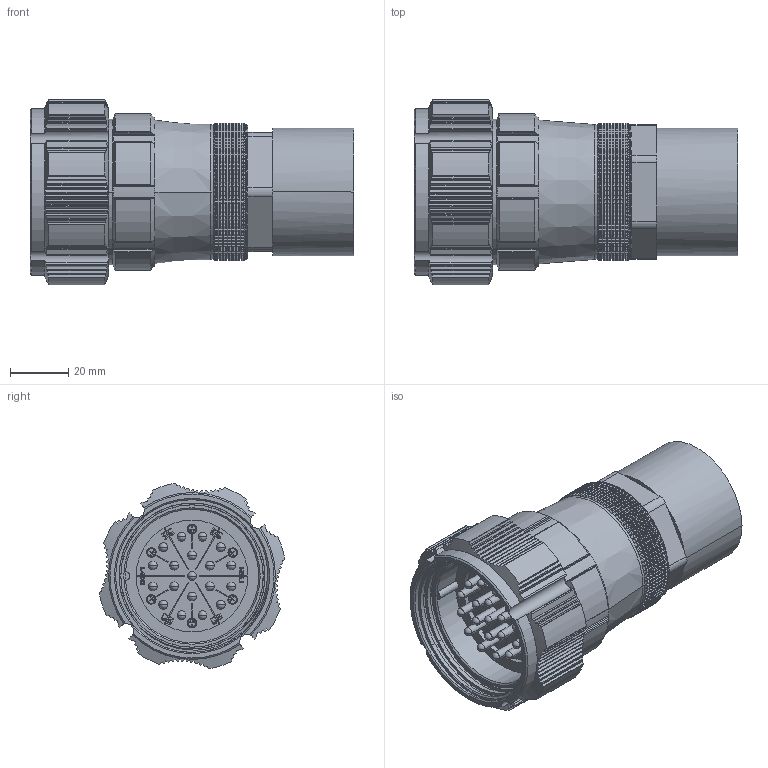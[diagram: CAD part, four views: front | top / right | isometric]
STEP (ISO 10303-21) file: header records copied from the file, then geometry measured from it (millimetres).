
FILE_DESCRIPTION((''),'2;1');
FILE_NAME('PRT0001','2020-06-04T',('Administrator'),(''),'CREO PARAMETRIC BY PTC INC, 2016130','CREO PARAMETRIC BY PTC INC, 2016130','');
FILE_SCHEMA(('CONFIG_CONTROL_DESIGN'));
Products named in the file (1): PRT0001
Bounding box: 111.5 x 63.98 x 63.98 mm (x, y, z)
Volume: 186870.7 mm3; surface area: 43817.3 mm2
Topology: 1 solids, 1 shells, 4120 faces, 12047 edges, 7986 vertices
Faces by surface type: plane 3037, cylinder 979, cone 47, sphere 38, bspline 16, torus 3
Entity records: 141191 total; most frequent: CARTESIAN_POINT 32740, ORIENTED_EDGE 24018, DIRECTION 20845, EDGE_CURVE 12009, VECTOR 8835, LINE 8835, VERTEX_POINT 7986, AXIS2_PLACEMENT_3D 6005
